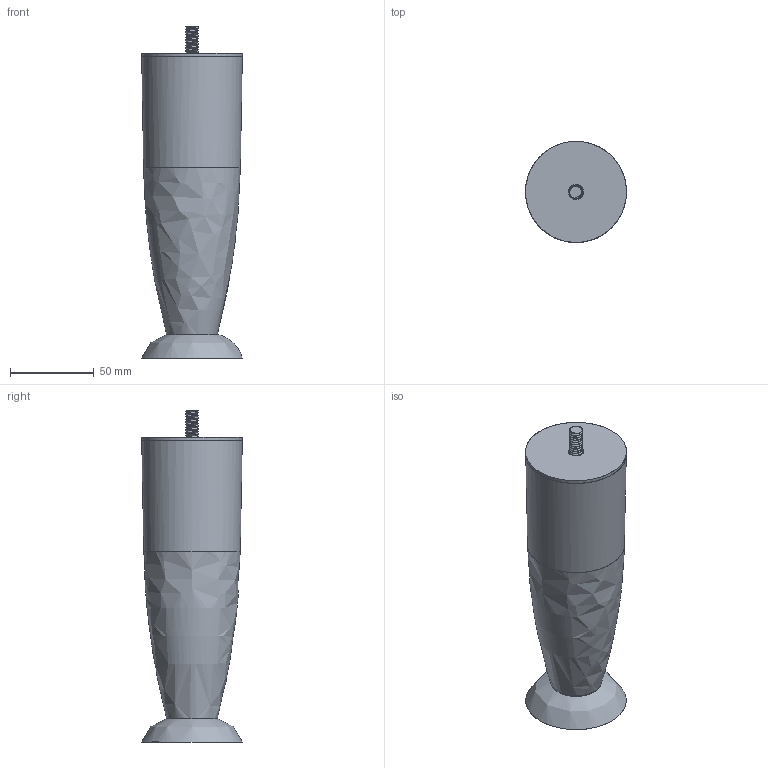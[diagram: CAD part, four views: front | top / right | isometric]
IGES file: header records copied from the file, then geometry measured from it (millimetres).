
Start section: C
Global section: file name: 0082-180.igs; native system: By Siemens PLM Incorporated; preprocessor: XPlus GENERIC/IGES 16.0.42; author: Author; organization: Title; date: 20260104.154950; units: millimetre
Bounding box: 60.3 x 60.28 x 198 mm (x, y, z)
Surface area: 75319.4 mm2 (no closed solid volume)
Topology: 0 solids, 0 shells, 85 faces, 841 edges, 841 vertices
Faces by surface type: bspline 85
